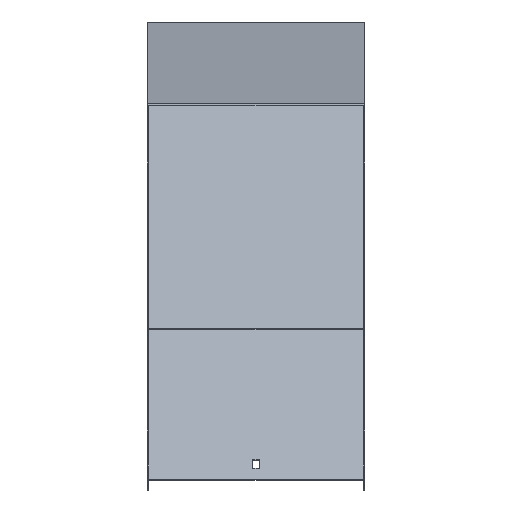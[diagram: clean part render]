
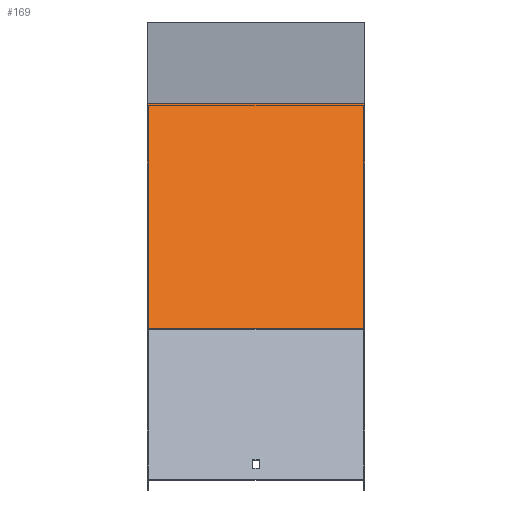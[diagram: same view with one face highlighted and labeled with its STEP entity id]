
A CAD part, top view. The second image highlights one B-rep face of the part: STEP entity #169.
In plain terms, the highlighted planar face has unit normal (0, 0.707, 0.707).
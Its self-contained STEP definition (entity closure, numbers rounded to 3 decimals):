
#8 = CARTESIAN_POINT ( 'NONE',  ( 101.5, -56.867, 449.505 ) ) ;
#21 = VERTEX_POINT ( 'NONE', #778 ) ;
#30 = DIRECTION ( 'NONE',  ( 0., -0.707, -0.707 ) ) ;
#80 = DIRECTION ( 'NONE',  ( 0., -0.707, 0.707 ) ) ;
#104 = LINE ( 'NONE', #330, #443 ) ;
#111 = CARTESIAN_POINT ( 'NONE',  ( -101.5, -266.872, 659.51 ) ) ;
#114 = PLANE ( 'NONE',  #244 ) ;
#169 = ADVANCED_FACE ( 'NONE', ( #575 ), #114, .F. ) ;
#171 = ORIENTED_EDGE ( 'NONE', *, *, #695, .F. ) ;
#176 = DIRECTION ( 'NONE',  ( 0., 0.707, -0.707 ) ) ;
#244 = AXIS2_PLACEMENT_3D ( 'NONE', #410, #30, #176 ) ;
#255 = CARTESIAN_POINT ( 'NONE',  ( 101.5, -266.872, 659.51 ) ) ;
#266 = EDGE_CURVE ( 'NONE', #21, #654, #355, .T. ) ;
#275 = VERTEX_POINT ( 'NONE', #255 ) ;
#309 = EDGE_CURVE ( 'NONE', #492, #275, #321, .T. ) ;
#321 = LINE ( 'NONE', #775, #375 ) ;
#330 = CARTESIAN_POINT ( 'NONE',  ( 101.5, -56.867, 449.505 ) ) ;
#355 = LINE ( 'NONE', #541, #602 ) ;
#375 = VECTOR ( 'NONE', #80, 1000. ) ;
#410 = CARTESIAN_POINT ( 'NONE',  ( 101.5, -60.657, 453.295 ) ) ;
#443 = VECTOR ( 'NONE', #948, 1000. ) ;
#492 = VERTEX_POINT ( 'NONE', #8 ) ;
#541 = CARTESIAN_POINT ( 'NONE',  ( -101.5, -60.657, 453.295 ) ) ;
#575 = FACE_OUTER_BOUND ( 'NONE', #752, .T. ) ;
#602 = VECTOR ( 'NONE', #962, 1000. ) ;
#654 = VERTEX_POINT ( 'NONE', #111 ) ;
#680 = ORIENTED_EDGE ( 'NONE', *, *, #309, .F. ) ;
#695 = EDGE_CURVE ( 'NONE', #275, #654, #856, .T. ) ;
#752 = EDGE_LOOP ( 'NONE', ( #858, #171, #680, #874 ) ) ;
#774 = CARTESIAN_POINT ( 'NONE',  ( 101.5, -266.872, 659.51 ) ) ;
#775 = CARTESIAN_POINT ( 'NONE',  ( 101.5, -60.657, 453.295 ) ) ;
#778 = CARTESIAN_POINT ( 'NONE',  ( -101.5, -56.867, 449.505 ) ) ;
#787 = DIRECTION ( 'NONE',  ( -1., 0., 0. ) ) ;
#829 = EDGE_CURVE ( 'NONE', #492, #21, #104, .T. ) ;
#843 = VECTOR ( 'NONE', #787, 1000. ) ;
#856 = LINE ( 'NONE', #774, #843 ) ;
#858 = ORIENTED_EDGE ( 'NONE', *, *, #266, .T. ) ;
#874 = ORIENTED_EDGE ( 'NONE', *, *, #829, .T. ) ;
#948 = DIRECTION ( 'NONE',  ( -1., 0., 0. ) ) ;
#962 = DIRECTION ( 'NONE',  ( 0., -0.707, 0.707 ) ) ;
